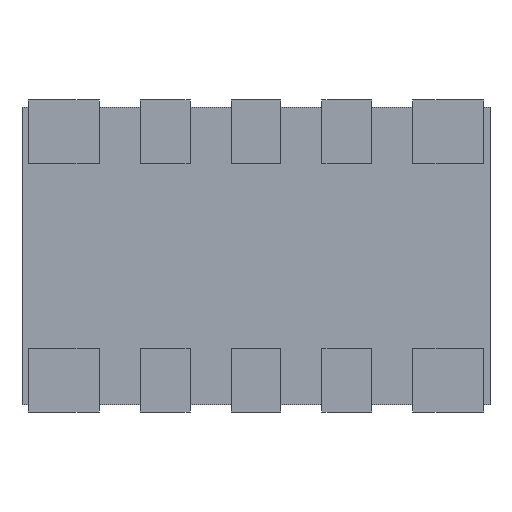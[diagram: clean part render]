
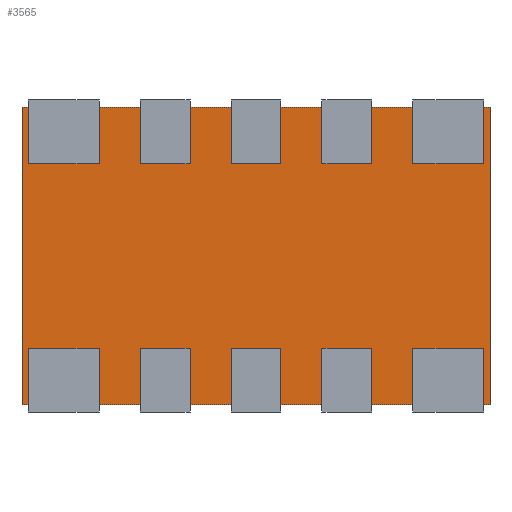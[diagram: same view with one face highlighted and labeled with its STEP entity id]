
A CAD part, front view. The second image highlights one B-rep face of the part: STEP entity #3565.
In plain terms, the highlighted planar face has unit normal (0, -1, 0).
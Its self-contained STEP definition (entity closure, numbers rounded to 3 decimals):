
#3418 = CARTESIAN_POINT ( 'NONE',  ( 1.65, 0.05, 1.05 ) ) ;
#3419 = VERTEX_POINT ( 'NONE', #3418 ) ;
#3420 = CARTESIAN_POINT ( 'NONE',  ( 1.65, 0.05, -1.05 ) ) ;
#3421 = VERTEX_POINT ( 'NONE', #3420 ) ;
#3422 = CARTESIAN_POINT ( 'NONE',  ( 1.65, 0.05, 1.05 ) ) ;
#3423 = DIRECTION ( 'NONE',  ( 0., 0., -1. ) ) ;
#3424 = VECTOR ( 'NONE', #3423, 1000. ) ;
#3425 = LINE ( 'NONE', #3422, #3424 ) ;
#3426 = EDGE_CURVE ( 'NONE', #3419, #3421, #3425, .T. ) ;
#3458 = CARTESIAN_POINT ( 'NONE',  ( -1.65, 0.05, -1.05 ) ) ;
#3459 = VERTEX_POINT ( 'NONE', #3458 ) ;
#3460 = CARTESIAN_POINT ( 'NONE',  ( -1.65, 0.05, -1.05 ) ) ;
#3461 = DIRECTION ( 'NONE',  ( -1., 0., 0. ) ) ;
#3462 = VECTOR ( 'NONE', #3461, 1000. ) ;
#3463 = LINE ( 'NONE', #3460, #3462 ) ;
#3464 = EDGE_CURVE ( 'NONE', #3421, #3459, #3463, .T. ) ;
#3489 = CARTESIAN_POINT ( 'NONE',  ( -1.65, 0.05, 1.05 ) ) ;
#3490 = VERTEX_POINT ( 'NONE', #3489 ) ;
#3491 = CARTESIAN_POINT ( 'NONE',  ( -1.65, 0.05, 1.05 ) ) ;
#3492 = DIRECTION ( 'NONE',  ( 0., 0., 1. ) ) ;
#3493 = VECTOR ( 'NONE', #3492, 1000. ) ;
#3494 = LINE ( 'NONE', #3491, #3493 ) ;
#3495 = EDGE_CURVE ( 'NONE', #3459, #3490, #3494, .T. ) ;
#3520 = CARTESIAN_POINT ( 'NONE',  ( -1.65, 0.05, 1.05 ) ) ;
#3521 = DIRECTION ( 'NONE',  ( 1., 0., 0. ) ) ;
#3522 = VECTOR ( 'NONE', #3521, 1000. ) ;
#3523 = LINE ( 'NONE', #3520, #3522 ) ;
#3524 = EDGE_CURVE ( 'NONE', #3490, #3419, #3523, .T. ) ;
#3554 = ORIENTED_EDGE ( 'NONE', *, *, #3426, .F. ) ;
#3555 = ORIENTED_EDGE ( 'NONE', *, *, #3524, .F. ) ;
#3556 = ORIENTED_EDGE ( 'NONE', *, *, #3495, .F. ) ;
#3557 = ORIENTED_EDGE ( 'NONE', *, *, #3464, .F. ) ;
#3558 = EDGE_LOOP ( 'NONE', ( #3554, #3555, #3556, #3557 ) ) ;
#3559 = FACE_OUTER_BOUND ( 'NONE', #3558, .T. ) ;
#3560 = CARTESIAN_POINT ( 'NONE',  ( 0., 0.05, 0. ) ) ;
#3561 = DIRECTION ( 'NONE',  ( 0., -1., 0. ) ) ;
#3562 = DIRECTION ( 'NONE',  ( 0., 0., -1. ) ) ;
#3563 = AXIS2_PLACEMENT_3D ( 'NONE', #3560, #3561, #3562 ) ;
#3564 = PLANE ( 'NONE', #3563 ) ;
#3565 = ADVANCED_FACE ( 'NONE', ( #3559 ), #3564, .T. ) ;
